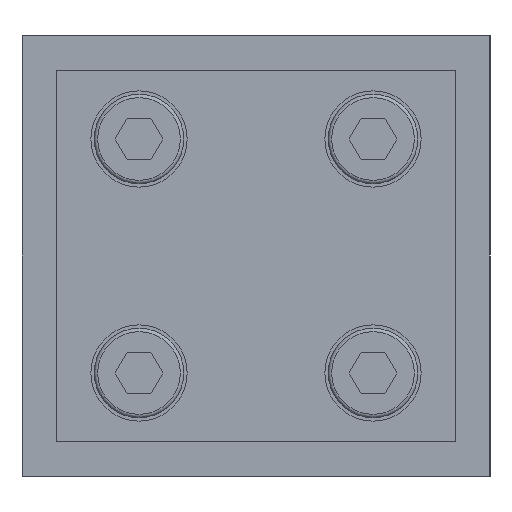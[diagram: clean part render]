
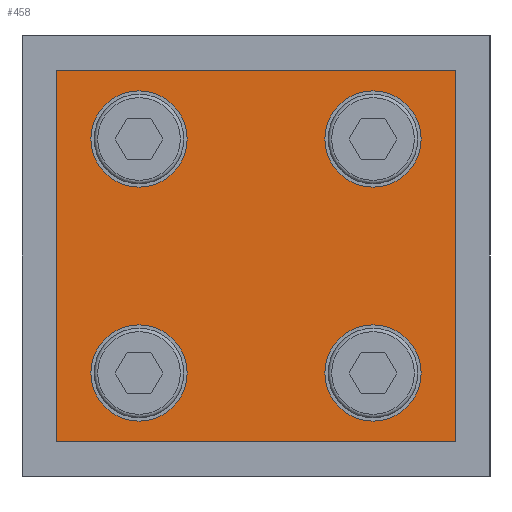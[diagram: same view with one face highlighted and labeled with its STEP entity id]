
A CAD part, left-side view. The second image highlights one B-rep face of the part: STEP entity #458.
In plain terms, the highlighted planar face has unit normal (-1, 0, 0).
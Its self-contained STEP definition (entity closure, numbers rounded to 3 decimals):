
#458=ADVANCED_FACE('',(#1414,#1415,#1416,#1417,#1418),#639,.F.);
#639=PLANE('',#3962);
#847=LINE('',#5727,#1123);
#850=LINE('',#5733,#1126);
#853=LINE('',#5739,#1129);
#856=LINE('',#5744,#1132);
#1123=VECTOR('',#4680,1.);
#1126=VECTOR('',#4685,1.);
#1129=VECTOR('',#4690,1.);
#1132=VECTOR('',#4695,1.);
#1414=FACE_BOUND('',#1728,.T.);
#1415=FACE_BOUND('',#1729,.T.);
#1416=FACE_BOUND('',#1730,.T.);
#1417=FACE_BOUND('',#1731,.T.);
#1418=FACE_BOUND('',#1732,.T.);
#1728=EDGE_LOOP('',(#2378));
#1729=EDGE_LOOP('',(#2379));
#1730=EDGE_LOOP('',(#2380));
#1731=EDGE_LOOP('',(#2381));
#1732=EDGE_LOOP('',(#2382,#2383,#2384,#2385));
#2378=ORIENTED_EDGE('',*,*,#3377,.T.);
#2379=ORIENTED_EDGE('',*,*,#3378,.T.);
#2380=ORIENTED_EDGE('',*,*,#3379,.T.);
#2381=ORIENTED_EDGE('',*,*,#3380,.T.);
#2382=ORIENTED_EDGE('',*,*,#3367,.F.);
#2383=ORIENTED_EDGE('',*,*,#3376,.F.);
#2384=ORIENTED_EDGE('',*,*,#3373,.F.);
#2385=ORIENTED_EDGE('',*,*,#3370,.F.);
#2979=VERTEX_POINT('',#5726);
#2980=VERTEX_POINT('',#5728);
#2982=VERTEX_POINT('',#5734);
#2984=VERTEX_POINT('',#5740);
#2985=VERTEX_POINT('',#5747);
#2986=VERTEX_POINT('',#5749);
#2987=VERTEX_POINT('',#5751);
#2988=VERTEX_POINT('',#5753);
#3367=EDGE_CURVE('',#2979,#2980,#847,.T.);
#3370=EDGE_CURVE('',#2980,#2982,#850,.T.);
#3373=EDGE_CURVE('',#2982,#2984,#853,.T.);
#3376=EDGE_CURVE('',#2984,#2979,#856,.T.);
#3377=EDGE_CURVE('',#2985,#2985,#3685,.T.);
#3378=EDGE_CURVE('',#2986,#2986,#3686,.T.);
#3379=EDGE_CURVE('',#2987,#2987,#3687,.T.);
#3380=EDGE_CURVE('',#2988,#2988,#3688,.T.);
#3685=CIRCLE('',#3958,7.);
#3686=CIRCLE('',#3959,7.);
#3687=CIRCLE('',#3960,7.);
#3688=CIRCLE('',#3961,7.);
#3958=AXIS2_PLACEMENT_3D('',#5746,#4698,#4699);
#3959=AXIS2_PLACEMENT_3D('',#5748,#4700,#4701);
#3960=AXIS2_PLACEMENT_3D('',#5750,#4702,#4703);
#3961=AXIS2_PLACEMENT_3D('',#5752,#4704,#4705);
#3962=AXIS2_PLACEMENT_3D('',#5754,#4706,#4707);
#4680=DIRECTION('',(0.,0.,-1.));
#4685=DIRECTION('',(0.,1.,0.));
#4690=DIRECTION('',(0.,0.,1.));
#4695=DIRECTION('',(0.,-1.,0.));
#4698=DIRECTION('',(1.,0.,0.));
#4699=DIRECTION('',(0.,1.,0.));
#4700=DIRECTION('',(1.,0.,0.));
#4701=DIRECTION('',(0.,1.,0.));
#4702=DIRECTION('',(1.,0.,0.));
#4703=DIRECTION('',(0.,1.,0.));
#4704=DIRECTION('',(1.,0.,0.));
#4705=DIRECTION('',(0.,1.,0.));
#4706=DIRECTION('',(1.,0.,0.));
#4707=DIRECTION('',(0.,0.,-1.));
#5726=CARTESIAN_POINT('',(-72.,-29.,59.));
#5727=CARTESIAN_POINT('',(-72.,-29.,59.));
#5728=CARTESIAN_POINT('',(-72.,-29.,5.));
#5733=CARTESIAN_POINT('',(-72.,-29.,5.));
#5734=CARTESIAN_POINT('',(-72.,29.,5.));
#5739=CARTESIAN_POINT('',(-72.,29.,5.));
#5740=CARTESIAN_POINT('',(-72.,29.,59.));
#5744=CARTESIAN_POINT('',(-72.,29.,59.));
#5746=CARTESIAN_POINT('',(-72.,-17.,49.));
#5747=CARTESIAN_POINT('',(-72.,-10.,49.));
#5748=CARTESIAN_POINT('',(-72.,17.,49.));
#5749=CARTESIAN_POINT('',(-72.,24.,49.));
#5750=CARTESIAN_POINT('',(-72.,17.,15.));
#5751=CARTESIAN_POINT('',(-72.,24.,15.));
#5752=CARTESIAN_POINT('',(-72.,-17.,15.));
#5753=CARTESIAN_POINT('',(-72.,-10.,15.));
#5754=CARTESIAN_POINT('',(-72.,0.,0.));
